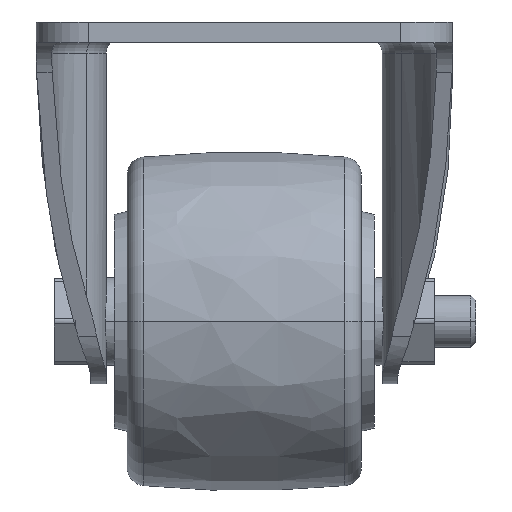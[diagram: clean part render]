
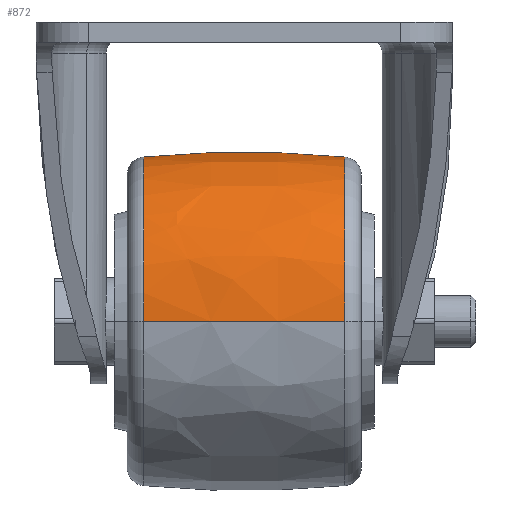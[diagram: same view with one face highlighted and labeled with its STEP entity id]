
A CAD part, left-side view. The second image highlights one B-rep face of the part: STEP entity #872.
In plain terms, the highlighted free-form (B-spline) face has degree [3, 3] with [4, 4] control points.
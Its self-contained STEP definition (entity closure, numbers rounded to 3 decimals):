
#43=(
BOUNDED_SURFACE()
B_SPLINE_SURFACE(3,3,((#12143,#12144,#12145,#12146),(#12147,#12148,#12149,
#12150),(#12151,#12152,#12153,#12154),(#12155,#12156,#12157,#12158)),
 .UNSPECIFIED.,.F.,.F.,.F.)
B_SPLINE_SURFACE_WITH_KNOTS((4,4),(4,4),(0.,1.),(0.,1.),.UNSPECIFIED.)
GEOMETRIC_REPRESENTATION_ITEM()
RATIONAL_B_SPLINE_SURFACE(((1.,0.333,0.333,1.),(0.997,
0.332,0.332,0.997),(0.997,
0.332,0.332,0.997),(1.,0.333,
0.333,1.)))
REPRESENTATION_ITEM('')
SURFACE()
);
#872=ADVANCED_FACE('',(#1485),#43,.T.);
#1485=FACE_OUTER_BOUND('',#1889,.T.);
#1889=EDGE_LOOP('',(#3934,#3935,#3936,#3937));
#2164=CIRCLE('',#7467,31.563);
#2168=CIRCLE('',#7473,200.);
#2170=CIRCLE('',#7475,200.);
#2171=CIRCLE('',#7476,31.563);
#3934=ORIENTED_EDGE('',*,*,#5866,.T.);
#3935=ORIENTED_EDGE('',*,*,#5863,.T.);
#3936=ORIENTED_EDGE('',*,*,#5859,.F.);
#3937=ORIENTED_EDGE('',*,*,#5865,.F.);
#4898=VERTEX_POINT('',#12114);
#4899=VERTEX_POINT('',#12115);
#4900=VERTEX_POINT('',#12122);
#4901=VERTEX_POINT('',#12124);
#5859=EDGE_CURVE('',#4898,#4899,#2164,.T.);
#5863=EDGE_CURVE('',#4900,#4899,#2168,.T.);
#5865=EDGE_CURVE('',#4901,#4898,#2170,.T.);
#5866=EDGE_CURVE('',#4901,#4900,#2171,.T.);
#7467=AXIS2_PLACEMENT_3D('',#12113,#9036,#9037);
#7473=AXIS2_PLACEMENT_3D('',#12121,#9048,#9049);
#7475=AXIS2_PLACEMENT_3D('',#12125,#9052,#9053);
#7476=AXIS2_PLACEMENT_3D('',#12142,#9054,#9055);
#9036=DIRECTION('',(0.,1.,0.));
#9037=DIRECTION('',(-1.,0.,0.));
#9048=DIRECTION('',(0.,0.,1.));
#9049=DIRECTION('',(0.995,-0.097,0.));
#9052=DIRECTION('',(0.,0.,-1.));
#9053=DIRECTION('',(-0.995,-0.097,0.));
#9054=DIRECTION('',(0.,1.,0.));
#9055=DIRECTION('',(-1.,0.,0.));
#12113=CARTESIAN_POINT('',(0.2,19.339,-57.5));
#12114=CARTESIAN_POINT('',(-31.363,19.339,-57.5));
#12115=CARTESIAN_POINT('',(31.762,19.339,-57.5));
#12121=CARTESIAN_POINT('',(-167.3,0.,-57.5));
#12122=CARTESIAN_POINT('',(31.762,-19.339,-57.5));
#12124=CARTESIAN_POINT('',(-31.363,-19.339,-57.5));
#12125=CARTESIAN_POINT('',(167.7,0.,-57.5));
#12142=CARTESIAN_POINT('',(0.2,-19.339,-57.5));
#12143=CARTESIAN_POINT('',(31.762,-19.339,-57.5));
#12144=CARTESIAN_POINT('',(31.762,-19.339,5.626));
#12145=CARTESIAN_POINT('',(-31.363,-19.339,5.626));
#12146=CARTESIAN_POINT('',(-31.363,-19.339,-57.5));
#12147=CARTESIAN_POINT('',(33.013,-6.467,-57.5));
#12148=CARTESIAN_POINT('',(33.013,-6.467,8.127));
#12149=CARTESIAN_POINT('',(-32.614,-6.467,8.127));
#12150=CARTESIAN_POINT('',(-32.614,-6.467,-57.5));
#12151=CARTESIAN_POINT('',(33.013,6.467,-57.5));
#12152=CARTESIAN_POINT('',(33.013,6.467,8.127));
#12153=CARTESIAN_POINT('',(-32.614,6.467,8.127));
#12154=CARTESIAN_POINT('',(-32.614,6.467,-57.5));
#12155=CARTESIAN_POINT('',(31.762,19.339,-57.5));
#12156=CARTESIAN_POINT('',(31.762,19.339,5.626));
#12157=CARTESIAN_POINT('',(-31.363,19.339,5.626));
#12158=CARTESIAN_POINT('',(-31.363,19.339,-57.5));
